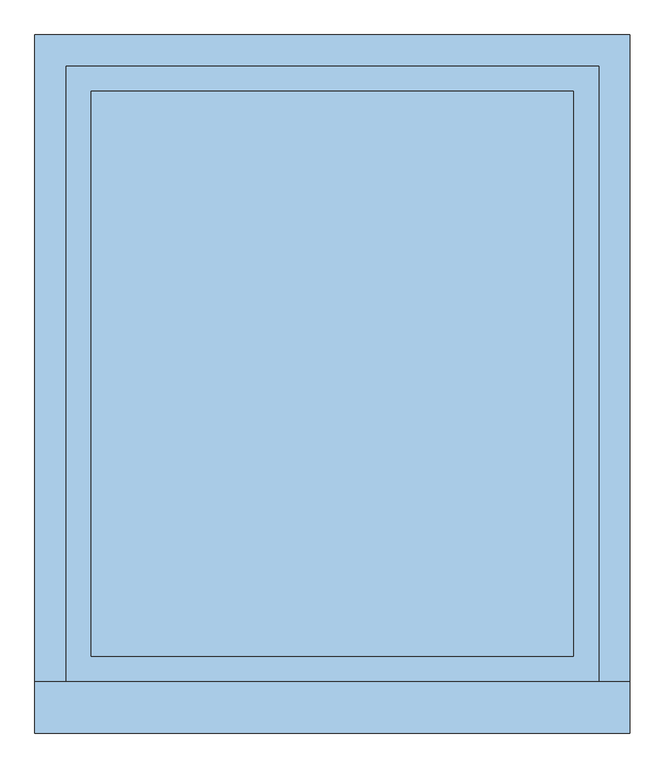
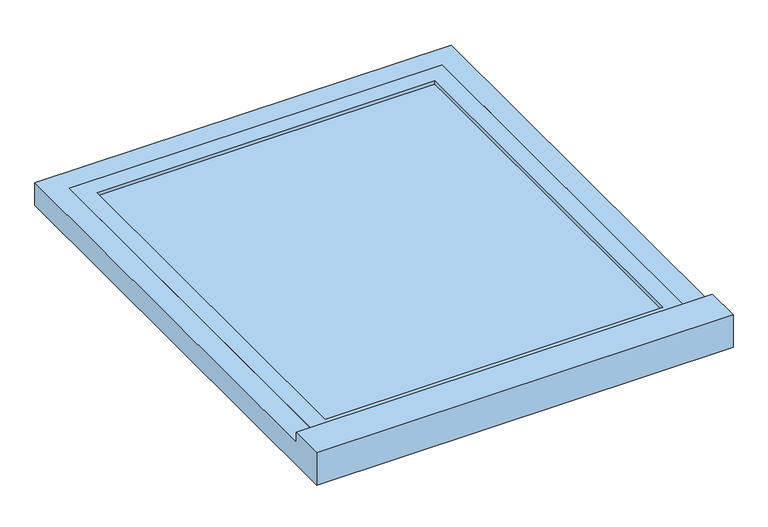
"""IFC4 building model written with IfcOpenShell, lengths in millimetres: window geometry, Fenêtre de toit : 114/118."""

from ifc_helpers import new_model, si_unit, frame, origin, place, context, project, spatial, polyline, circle_curve, outline, extrude, faceted_brep, source, transform, mapped, element, save
from ifc_brep_helpers import plane_surface, cylinder_surface, advanced_brep


def window_869f44c6(model_context):
    return source(origin(), model_context, "Body", "SolidModel", [
        advanced_brep(
        [(-505.0, -563.5, 4030.0), (-505.0, -586.5, 4030.0), (-505.0, -586.5, 4040.0), (-505.0, -563.5, 4040.0), (505.0, -563.5, 4030.0), (505.0, -563.5, 4040.0), (505.0, -586.5, 4040.0), (505.0, -586.5, 4030.0), (465.0, -570.0, 4040.0), (465.0, -580.0, 4040.0), (455.0, -580.0, 4040.0), (455.0, -570.0, 4040.0), (158.3333333, -570.0, 4040.0), (158.3333333, -580.0, 4040.0), (148.3333333, -580.0, 4040.0), (148.3333333, -570.0, 4040.0), (-148.3333333, -570.0, 4040.0), (-148.3333333, -580.0, 4040.0), (-158.3333333, -580.0, 4040.0), (-158.3333333, -570.0, 4040.0), (-455.0, -570.0, 4040.0), (-455.0, -580.0, 4040.0), (-465.0, -580.0, 4040.0), (-465.0, -570.0, 4040.0), (465.0, -570.0, 4075.0), (455.0, -570.0, 4075.0), (455.0, -580.0, 4075.0), (465.0, -580.0, 4075.0), (158.3333333, -570.0, 4075.0), (148.3333333, -570.0, 4075.0), (148.3333333, -580.0, 4075.0), (158.3333333, -580.0, 4075.0), (-148.3333333, -570.0, 4075.0), (-158.3333333, -570.0, 4075.0), (-158.3333333, -580.0, 4075.0), (-148.3333333, -580.0, 4075.0), (-455.0, -570.0, 4075.0), (-465.0, -570.0, 4075.0), (-465.0, -580.0, 4075.0), (-455.0, -580.0, 4075.0)],
        [
            (0, 1),
            (1, 2, circle_curve(frame((-505.0, -586.5, 4035.0), z_axis=(-1.0, 0.0, 0.0), x_axis=(0.0, 1.0, 0.0)), 5.0)),
            (2, 3),
            (3, 0, circle_curve(frame((-505.0, -563.5, 4035.0), z_axis=(-1.0, 0.0, 0.0), x_axis=(0.0, 1.0, 0.0)), 5.0)),
            (4, 5, circle_curve(frame((505.0, -563.5, 4035.0), z_axis=(1.0, 0.0, 0.0), x_axis=(0.0, 1.0, 0.0)), 5.0)),
            (5, 6),
            (6, 7, circle_curve(frame((505.0, -586.5, 4035.0), z_axis=(1.0, 0.0, 0.0), x_axis=(0.0, 1.0, 0.0)), 5.0)),
            (7, 4),
            (0, 4),
            (7, 1),
            (6, 2),
            (5, 3),
            (8, 9),
            (9, 10, circle_curve(frame((460.0, -580.0, 4040.0), z_axis=(0.0, 0.0, -1.0), x_axis=(-1.0, 0.0, 0.0)), 5.0)),
            (10, 11),
            (11, 8, circle_curve(frame((460.0, -570.0, 4040.0), z_axis=(0.0, 0.0, -1.0), x_axis=(-1.0, 0.0, 0.0)), 5.0)),
            (12, 13),
            (13, 14, circle_curve(frame((153.3333333, -580.0, 4040.0), z_axis=(0.0, 0.0, -1.0), x_axis=(-1.0, 0.0, 0.0)), 5.0)),
            (14, 15),
            (15, 12, circle_curve(frame((153.3333333, -570.0, 4040.0), z_axis=(0.0, 0.0, -1.0), x_axis=(-1.0, 0.0, 0.0)), 5.0)),
            (16, 17),
            (17, 18, circle_curve(frame((-153.3333333, -580.0, 4040.0), z_axis=(0.0, 0.0, -1.0), x_axis=(-1.0, 0.0, 0.0)), 5.0)),
            (18, 19),
            (19, 16, circle_curve(frame((-153.3333333, -570.0, 4040.0), z_axis=(0.0, 0.0, -1.0), x_axis=(-1.0, 0.0, 0.0)), 5.0)),
            (20, 21),
            (21, 22, circle_curve(frame((-460.0, -580.0, 4040.0), z_axis=(0.0, 0.0, -1.0), x_axis=(-1.0, 0.0, 0.0)), 5.0)),
            (22, 23),
            (23, 20, circle_curve(frame((-460.0, -570.0, 4040.0), z_axis=(0.0, 0.0, -1.0), x_axis=(-1.0, 0.0, 0.0)), 5.0)),
            (24, 25, circle_curve(frame((460.0, -570.0, 4075.0), z_axis=(0.0, 0.0, 1.0), x_axis=(-1.0, 0.0, 0.0)), 5.0)),
            (25, 26),
            (26, 27, circle_curve(frame((460.0, -580.0, 4075.0), z_axis=(0.0, 0.0, 1.0), x_axis=(-1.0, 0.0, 0.0)), 5.0)),
            (27, 24),
            (28, 29, circle_curve(frame((153.3333333, -570.0, 4075.0), z_axis=(0.0, 0.0, 1.0), x_axis=(-1.0, 0.0, 0.0)), 5.0)),
            (29, 30),
            (30, 31, circle_curve(frame((153.3333333, -580.0, 4075.0), z_axis=(0.0, 0.0, 1.0), x_axis=(-1.0, 0.0, 0.0)), 5.0)),
            (31, 28),
            (32, 33, circle_curve(frame((-153.3333333, -570.0, 4075.0), z_axis=(0.0, 0.0, 1.0), x_axis=(-1.0, 0.0, 0.0)), 5.0)),
            (33, 34),
            (34, 35, circle_curve(frame((-153.3333333, -580.0, 4075.0), z_axis=(0.0, 0.0, 1.0), x_axis=(-1.0, 0.0, 0.0)), 5.0)),
            (35, 32),
            (36, 37, circle_curve(frame((-460.0, -570.0, 4075.0), z_axis=(0.0, 0.0, 1.0), x_axis=(-1.0, 0.0, 0.0)), 5.0)),
            (37, 38),
            (38, 39, circle_curve(frame((-460.0, -580.0, 4075.0), z_axis=(0.0, 0.0, 1.0), x_axis=(-1.0, 0.0, 0.0)), 5.0)),
            (39, 36),
            (27, 9),
            (8, 24),
            (26, 10),
            (25, 11),
            (31, 13),
            (12, 28),
            (30, 14),
            (29, 15),
            (35, 17),
            (16, 32),
            (34, 18),
            (33, 19),
            (39, 21),
            (20, 36),
            (38, 22),
            (37, 23),
        ],
        [
            plane_surface(frame((-505.0, -604.8858213, 4030.0), z_axis=(-1.0, 0.0, 0.0), x_axis=(0.0, -1.0, 0.0))),
            plane_surface(frame((505.0, -604.8858213, 4030.0), z_axis=(1.0, 0.0, 0.0), x_axis=(0.0, 1.0, 0.0))),
            plane_surface(frame((-505.0, -563.5, 4030.0), z_axis=(0.0, 0.0, -1.0), x_axis=(1.0, 0.0, 0.0))),
            cylinder_surface(frame((505.0, -586.5, 4035.0), z_axis=(-1.0, 0.0, 0.0), x_axis=(0.0, 1.0, 0.0)), 5.0),
            plane_surface(frame((-505.0, -586.5, 4040.0), z_axis=(0.0, 0.0, 1.0), x_axis=(1.0, 0.0, 0.0))),
            cylinder_surface(frame((505.0, -563.5, 4035.0), z_axis=(-1.0, 0.0, 0.0), x_axis=(0.0, 1.0, 0.0)), 5.0),
            plane_surface(frame((465.0, -580.0, 4075.0), z_axis=(0.0, 0.0, 1.0), x_axis=(0.0, 1.0, 0.0))),
            plane_surface(frame((465.0, -570.0, 4035.0), z_axis=(1.0, 0.0, 0.0), x_axis=(0.0, 0.0, 1.0))),
            cylinder_surface(frame((460.0, -580.0, 4075.0), z_axis=(0.0, 0.0, -1.0), x_axis=(-1.0, 0.0, 0.0)), 5.0),
            plane_surface(frame((455.0, -580.0, 4035.0), z_axis=(-1.0, 0.0, 0.0), x_axis=(0.0, 0.0, 1.0))),
            cylinder_surface(frame((460.0, -570.0, 4075.0), z_axis=(0.0, 0.0, -1.0), x_axis=(-1.0, 0.0, 0.0)), 5.0),
            plane_surface(frame((158.3333333, -570.0, 4035.0), z_axis=(1.0, 0.0, 0.0), x_axis=(0.0, 0.0, 1.0))),
            cylinder_surface(frame((153.3333333, -580.0, 4075.0), z_axis=(0.0, 0.0, -1.0), x_axis=(-1.0, 0.0, 0.0)), 5.0),
            plane_surface(frame((148.3333333, -580.0, 4035.0), z_axis=(-1.0, 0.0, 0.0), x_axis=(0.0, 0.0, 1.0))),
            cylinder_surface(frame((153.3333333, -570.0, 4075.0), z_axis=(0.0, 0.0, -1.0), x_axis=(-1.0, 0.0, 0.0)), 5.0),
            plane_surface(frame((-148.3333333, -570.0, 4035.0), z_axis=(1.0, 0.0, 0.0), x_axis=(0.0, 0.0, 1.0))),
            cylinder_surface(frame((-153.3333333, -580.0, 4075.0), z_axis=(0.0, 0.0, -1.0), x_axis=(-1.0, 0.0, 0.0)), 5.0),
            plane_surface(frame((-158.3333333, -580.0, 4035.0), z_axis=(-1.0, 0.0, 0.0), x_axis=(0.0, 0.0, 1.0))),
            cylinder_surface(frame((-153.3333333, -570.0, 4075.0), z_axis=(0.0, 0.0, -1.0), x_axis=(-1.0, 0.0, 0.0)), 5.0),
            plane_surface(frame((-455.0, -570.0, 4035.0), z_axis=(1.0, 0.0, 0.0), x_axis=(0.0, 0.0, 1.0))),
            cylinder_surface(frame((-460.0, -580.0, 4075.0), z_axis=(0.0, 0.0, -1.0), x_axis=(-1.0, 0.0, 0.0)), 5.0),
            plane_surface(frame((-465.0, -580.0, 4035.0), z_axis=(-1.0, 0.0, 0.0), x_axis=(0.0, 0.0, 1.0))),
            cylinder_surface(frame((-460.0, -570.0, 4075.0), z_axis=(0.0, 0.0, -1.0), x_axis=(-1.0, 0.0, 0.0)), 5.0),
        ],
        [
            (0, [[1, 2, 3, 4]]),
            (1, [[5, 6, 7, 8]]),
            (2, [[-1, 9, -8, 10]]),
            (3, [[-2, -10, -7, 11]]),
            (4, [[-3, -11, -6, 12], [13, 14, 15, 16], [17, 18, 19, 20], [21, 22, 23, 24], [25, 26, 27, 28]]),
            (5, [[-4, -12, -5, -9]]),
            (6, [[29, 30, 31, 32]]),
            (6, [[33, 34, 35, 36]]),
            (6, [[37, 38, 39, 40]]),
            (6, [[41, 42, 43, 44]]),
            (7, [[-32, 45, -13, 46]]),
            (8, [[-31, 47, -14, -45]]),
            (9, [[-30, 48, -15, -47]]),
            (10, [[-29, -46, -16, -48]]),
            (11, [[-36, 49, -17, 50]]),
            (12, [[-35, 51, -18, -49]]),
            (13, [[-34, 52, -19, -51]]),
            (14, [[-33, -50, -20, -52]]),
            (15, [[-40, 53, -21, 54]]),
            (16, [[-39, 55, -22, -53]]),
            (17, [[-38, 56, -23, -55]]),
            (18, [[-37, -54, -24, -56]]),
            (19, [[-44, 57, -25, 58]]),
            (20, [[-43, 59, -26, -57]]),
            (21, [[-42, 60, -27, -59]]),
            (22, [[-41, -58, -28, -60]]),
        ],
    ),
        faceted_brep([(580.0, 660.0, 4115.0), (-580.0, 660.0, 4115.0), (-580.0, -600.0, 4115.0), (-520.0, -600.0, 4115.0), (-520.0, 600.0, 4115.0), (520.0, 600.0, 4115.0), (520.0, -600.0, 4115.0), (580.0, -600.0, 4115.0), (580.0, -700.0, 4050.0), (-580.0, -700.0, 4050.0), (-580.0, 660.0, 4050.0), (580.0, 660.0, 4050.0), (-520.0, -600.0, 4050.0), (520.0, -600.0, 4050.0), (520.0, 600.0, 4050.0), (-520.0, 600.0, 4050.0), (580.0, -600.0, 4145.0), (580.0, -700.0, 4145.0), (-580.0, -700.0, 4145.0), (-580.0, -600.0, 4145.0)], [[[0, 1, 2, 3, 4, 5, 6, 7]], [[8, 9, 10, 11], [12, 13, 14, 15]], [[8, 11, 0, 7, 16, 17]], [[1, 0, 11, 10]], [[10, 9, 18, 19, 2, 1]], [[18, 9, 8, 17]], [[4, 3, 12, 15]], [[5, 4, 15, 14]], [[6, 5, 14, 13]], [[13, 12, 3, 2, 19, 16, 7, 6]], [[19, 18, 17, 16]]]),
        extrude(outline(polyline([(470.0, -550.0), (-470.0, -550.0), (-470.0, 550.0), (470.0, 550.0), (470.0, -550.0)])), frame((0.0, 0.0, 4095.0), z_axis=(0.0, 0.0, 1.0), x_axis=(1.0, 0.0, 0.0)), (0.0, 0.0, 1.0), 10.0),
        extrude(outline(polyline([(-520.0, -600.0), (-520.0, 600.0), (520.0, 600.0), (520.0, -600.0), (-520.0, -600.0)]), holes=[polyline([(-470.0, 550.0), (-470.0, -550.0), (470.0, -550.0), (470.0, 550.0), (-470.0, 550.0)])]), frame((0.0, 0.0, 4075.0), z_axis=(0.0, 0.0, 1.0), x_axis=(1.0, 0.0, 0.0)), (0.0, 0.0, 1.0), 40.0),
    ])


if __name__ == "__main__":
    model = new_model("IFC4")
    model_context = context("Model", 3, world=origin())
    ifc_project = project(units=[si_unit("LENGTHUNIT", "METRE", prefix="MILLI")], contexts=[model_context])
    site = spatial("IfcSite", under=ifc_project)
    building = spatial("IfcBuilding", under=site)
    placement = place(None, origin())
    window_shape = window_869f44c6(model_context)
    element("IfcWindow", 1, ObjectType="Fenêtre de toit : 114/118", at=placement, inside=building, context=model_context, shape_type="MappedRepresentation", body=[
        mapped(window_shape, transform((0.0, 0.0, 0.0), x_axis=(1.0, 0.0, 0.0), y_axis=(0.0, 1.0, 0.0), z_axis=(0.0, 0.0, 1.0))),
    ])
    save(model, "model.ifc")
